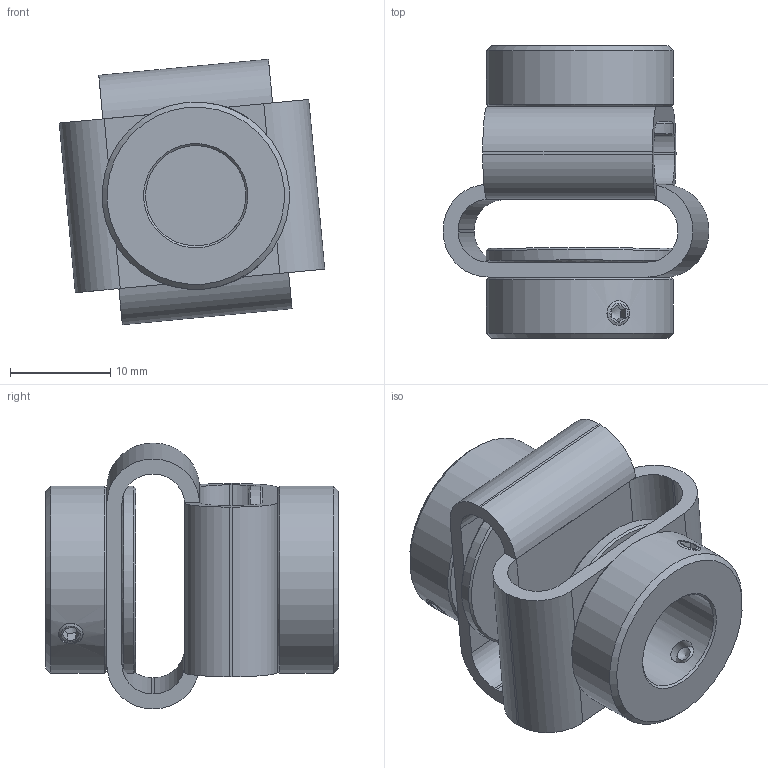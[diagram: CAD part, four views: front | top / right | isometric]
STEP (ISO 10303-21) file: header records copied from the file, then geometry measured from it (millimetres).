
FILE_DESCRIPTION(/* description */ (''),/* implementation_level */ '2;1');
FILE_NAME(/* name */ 'Z:\ABP-Antriebstechnik\Entwicklung-3D\Paguflex\DKPS 2928 10 10.stp',/* time_stamp */ '2017-06-21T09:59:57+02:00',/* author */ ('werner.boesinger'),/* organization */ (''),/* preprocessor_version */ 'ST-DEVELOPER v16.1',/* originating_system */ 'Autodesk Inventor 2016',/* authorisation */ '');
FILE_SCHEMA (('AUTOMOTIVE_DESIGN { 1 0 10303 214 3 1 1 }'));
Length unit declared in the file: millimetre
Products named in the file (1): DKPS 2928 10 10
Bounding box: 26.49 x 29.2 x 26.49 mm (x, y, z)
Volume: 5024.1 mm3; surface area: 5380.3 mm2
Topology: 1 solids, 3 shells, 154 faces, 366 edges, 226 vertices
Faces by surface type: plane 90, cylinder 36, cone 28
Full cylindrical faces by diameter (mm): 2.459 x8, 10 x2, 12.5 x2, 14 x4, 18.7 x4
Entity records: 4361 total; most frequent: CARTESIAN_POINT 955, DIRECTION 694, ORIENTED_EDGE 572, EDGE_CURVE 286, AXIS2_PLACEMENT_3D 273, EDGE_LOOP 220, VERTEX_POINT 192, STYLED_ITEM 155
